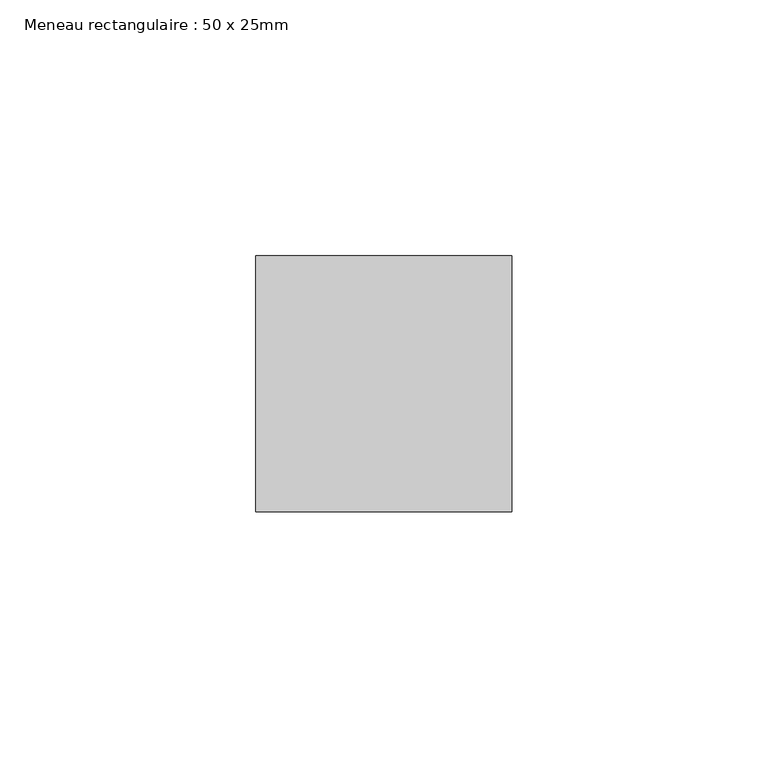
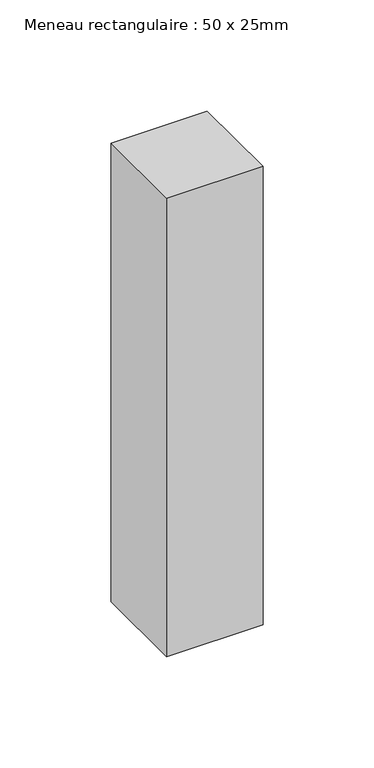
"""IFC4 building model written with IfcOpenShell, lengths in millimetres: member geometry, Meneau rectangulaire : 50 x 25mm."""

from ifc_helpers import new_model, si_unit, frame, origin, place, context, project, spatial, polyline, outline, extrude, source, transform, mapped, element, save


def meneau_rectangulaire_50_x_25mm_8c0757b0(model_context):
    return source(origin(), model_context, "Body", "SweptSolid", [
        extrude(outline(polyline([(0.0, 50.0), (0.0, 0.0), (-50.0, 0.0), (-50.0, 50.0), (0.0, 50.0)])), frame((0.0, 0.0, -251.7765941), z_axis=(0.0, 0.0, 1.0), x_axis=(1.0, 0.0, 0.0)), (0.0, 0.0, 1.0), 251.7765941),
    ])


if __name__ == "__main__":
    model = new_model("IFC4")
    model_context = context("Model", 3, world=origin())
    ifc_project = project(units=[si_unit("LENGTHUNIT", "METRE", prefix="MILLI")], contexts=[model_context])
    site = spatial("IfcSite", under=ifc_project)
    building = spatial("IfcBuilding", under=site)
    placement = place(None, origin())
    meneau_rectangulaire_50_x_25mm_shape = meneau_rectangulaire_50_x_25mm_8c0757b0(model_context)
    element("IfcMember", 1, ObjectType="Meneau rectangulaire : 50 x 25mm", at=placement, inside=building, context=model_context, shape_type="MappedRepresentation", body=[
        mapped(meneau_rectangulaire_50_x_25mm_shape, transform((0.0, 0.0, 0.0), x_axis=(1.0, 0.0, 0.0), y_axis=(0.0, 1.0, 0.0), z_axis=(0.0, 0.0, 1.0))),
    ])
    save(model, "model.ifc")
